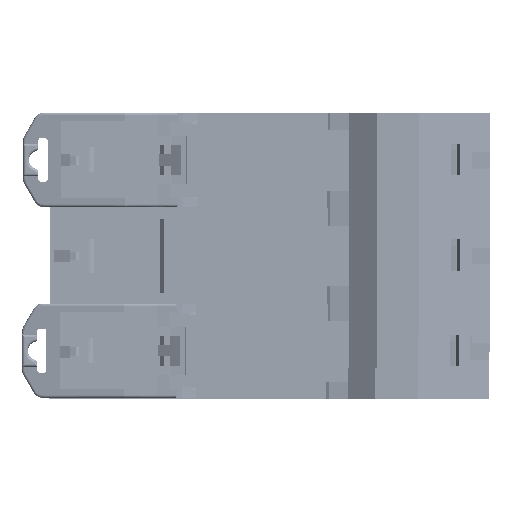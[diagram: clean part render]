
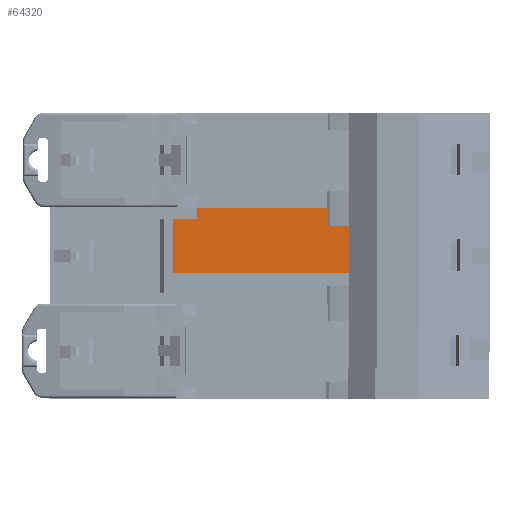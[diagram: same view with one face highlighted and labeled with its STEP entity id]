
A CAD part, front view. The second image highlights one B-rep face of the part: STEP entity #64320.
In plain terms, the highlighted planar face has unit normal (0, -1, 0).
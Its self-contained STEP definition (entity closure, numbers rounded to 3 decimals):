
#401 = PLANE ( 'NONE',  #47599 ) ;
#1337 = EDGE_CURVE ( 'NONE', #73955, #79366, #81642, .T. ) ;
#1779 = VECTOR ( 'NONE', #67258, 1000. ) ;
#3720 = LINE ( 'NONE', #76876, #65598 ) ;
#5128 = ORIENTED_EDGE ( 'NONE', *, *, #74553, .T. ) ;
#6097 = DIRECTION ( 'NONE',  ( 1., 0., 0. ) ) ;
#7945 = VERTEX_POINT ( 'NONE', #50836 ) ;
#10038 = LINE ( 'NONE', #39583, #32383 ) ;
#12405 = EDGE_CURVE ( 'NONE', #61884, #79366, #37197, .T. ) ;
#12816 = DIRECTION ( 'NONE',  ( 1., 0., 0. ) ) ;
#14501 = EDGE_LOOP ( 'NONE', ( #95156, #96937, #90242, #92049, #40552, #45920, #79866, #46397, #92817, #5128 ) ) ;
#15453 = EDGE_CURVE ( 'NONE', #43968, #93185, #40323, .T. ) ;
#16996 = CARTESIAN_POINT ( 'NONE',  ( 29.912, -34.756, 0. ) ) ;
#18401 = VERTEX_POINT ( 'NONE', #86537 ) ;
#20696 = CARTESIAN_POINT ( 'NONE',  ( 22.8, -34.756, 11.9 ) ) ;
#24045 = LINE ( 'NONE', #81214, #68882 ) ;
#25809 = DIRECTION ( 'NONE',  ( 0., 1., 0. ) ) ;
#32383 = VECTOR ( 'NONE', #6097, 1000. ) ;
#32775 = VERTEX_POINT ( 'NONE', #20696 ) ;
#37197 = LINE ( 'NONE', #54813, #59606 ) ;
#37494 = CARTESIAN_POINT ( 'NONE',  ( 22.8, -34.756, 0. ) ) ;
#37548 = CARTESIAN_POINT ( 'NONE',  ( 32.281, -34.756, 3.2 ) ) ;
#37859 = VECTOR ( 'NONE', #93392, 1000. ) ;
#39583 = CARTESIAN_POINT ( 'NONE',  ( 32.281, -34.756, 0. ) ) ;
#40323 = LINE ( 'NONE', #89809, #97018 ) ;
#40552 = ORIENTED_EDGE ( 'NONE', *, *, #99963, .F. ) ;
#43968 = VERTEX_POINT ( 'NONE', #16996 ) ;
#45920 = ORIENTED_EDGE ( 'NONE', *, *, #12405, .T. ) ;
#46397 = ORIENTED_EDGE ( 'NONE', *, *, #49136, .F. ) ;
#47049 = DIRECTION ( 'NONE',  ( 0., 0., -1. ) ) ;
#47599 = AXIS2_PLACEMENT_3D ( 'NONE', #101256, #25809, #84672 ) ;
#49136 = EDGE_CURVE ( 'NONE', #93185, #73955, #100686, .T. ) ;
#50836 = CARTESIAN_POINT ( 'NONE',  ( 58.3, -34.756, 2. ) ) ;
#54813 = CARTESIAN_POINT ( 'NONE',  ( 32.281, -34.756, 0. ) ) ;
#59287 = VECTOR ( 'NONE', #47049, 1000. ) ;
#59606 = VECTOR ( 'NONE', #12816, 1000. ) ;
#61884 = VERTEX_POINT ( 'NONE', #37494 ) ;
#62312 = LINE ( 'NONE', #73015, #104443 ) ;
#64320 = ADVANCED_FACE ( 'NONE', ( #81619 ), #401, .F. ) ;
#65598 = VECTOR ( 'NONE', #85322, 1000. ) ;
#67258 = DIRECTION ( 'NONE',  ( -1., 0., 0. ) ) ;
#67712 = EDGE_CURVE ( 'NONE', #18401, #99347, #3720, .T. ) ;
#68407 = CARTESIAN_POINT ( 'NONE',  ( 32.281, -34.756, 11.9 ) ) ;
#68882 = VECTOR ( 'NONE', #89667, 1000. ) ;
#68987 = LINE ( 'NONE', #85613, #1779 ) ;
#71419 = DIRECTION ( 'NONE',  ( -1., 0., 0. ) ) ;
#72095 = CARTESIAN_POINT ( 'NONE',  ( 25.85, -34.756, 8.8 ) ) ;
#73015 = CARTESIAN_POINT ( 'NONE',  ( 22.8, -34.756, 8.8 ) ) ;
#73251 = DIRECTION ( 'NONE',  ( 0., 0., 1. ) ) ;
#73955 = VERTEX_POINT ( 'NONE', #83488 ) ;
#74553 = EDGE_CURVE ( 'NONE', #43968, #18401, #10038, .T. ) ;
#76876 = CARTESIAN_POINT ( 'NONE',  ( 54., -34.756, 3. ) ) ;
#78333 = VECTOR ( 'NONE', #71419, 1000. ) ;
#79366 = VERTEX_POINT ( 'NONE', #91669 ) ;
#79866 = ORIENTED_EDGE ( 'NONE', *, *, #1337, .F. ) ;
#81214 = CARTESIAN_POINT ( 'NONE',  ( 58.3, -34.756, 8.8 ) ) ;
#81472 = DIRECTION ( 'NONE',  ( 0., 0., 1. ) ) ;
#81530 = CARTESIAN_POINT ( 'NONE',  ( 58.3, -34.756, 11.9 ) ) ;
#81619 = FACE_OUTER_BOUND ( 'NONE', #14501, .T. ) ;
#81642 = LINE ( 'NONE', #72095, #59287 ) ;
#82291 = VERTEX_POINT ( 'NONE', #81530 ) ;
#83488 = CARTESIAN_POINT ( 'NONE',  ( 25.85, -34.756, 3.2 ) ) ;
#84672 = DIRECTION ( 'NONE',  ( -1., 0., 0. ) ) ;
#85322 = DIRECTION ( 'NONE',  ( 0., 0., 1. ) ) ;
#85613 = CARTESIAN_POINT ( 'NONE',  ( 32.281, -34.756, 2. ) ) ;
#86537 = CARTESIAN_POINT ( 'NONE',  ( 54., -34.756, 0. ) ) ;
#88365 = EDGE_CURVE ( 'NONE', #82291, #7945, #24045, .T. ) ;
#89667 = DIRECTION ( 'NONE',  ( 0., 0., -1. ) ) ;
#89809 = CARTESIAN_POINT ( 'NONE',  ( 29.912, -34.756, 8.8 ) ) ;
#90242 = ORIENTED_EDGE ( 'NONE', *, *, #88365, .F. ) ;
#91040 = EDGE_CURVE ( 'NONE', #32775, #82291, #102421, .T. ) ;
#91669 = CARTESIAN_POINT ( 'NONE',  ( 25.85, -34.756, 0. ) ) ;
#92049 = ORIENTED_EDGE ( 'NONE', *, *, #91040, .F. ) ;
#92817 = ORIENTED_EDGE ( 'NONE', *, *, #15453, .F. ) ;
#93185 = VERTEX_POINT ( 'NONE', #99956 ) ;
#93392 = DIRECTION ( 'NONE',  ( 1., 0., 0. ) ) ;
#95156 = ORIENTED_EDGE ( 'NONE', *, *, #67712, .T. ) ;
#96937 = ORIENTED_EDGE ( 'NONE', *, *, #99597, .F. ) ;
#97018 = VECTOR ( 'NONE', #73251, 1000. ) ;
#98212 = CARTESIAN_POINT ( 'NONE',  ( 54., -34.756, 2. ) ) ;
#99347 = VERTEX_POINT ( 'NONE', #98212 ) ;
#99597 = EDGE_CURVE ( 'NONE', #7945, #99347, #68987, .T. ) ;
#99956 = CARTESIAN_POINT ( 'NONE',  ( 29.912, -34.756, 3.2 ) ) ;
#99963 = EDGE_CURVE ( 'NONE', #61884, #32775, #62312, .T. ) ;
#100686 = LINE ( 'NONE', #37548, #78333 ) ;
#101256 = CARTESIAN_POINT ( 'NONE',  ( 32.281, -34.756, 8.8 ) ) ;
#102421 = LINE ( 'NONE', #68407, #37859 ) ;
#104443 = VECTOR ( 'NONE', #81472, 1000. ) ;
